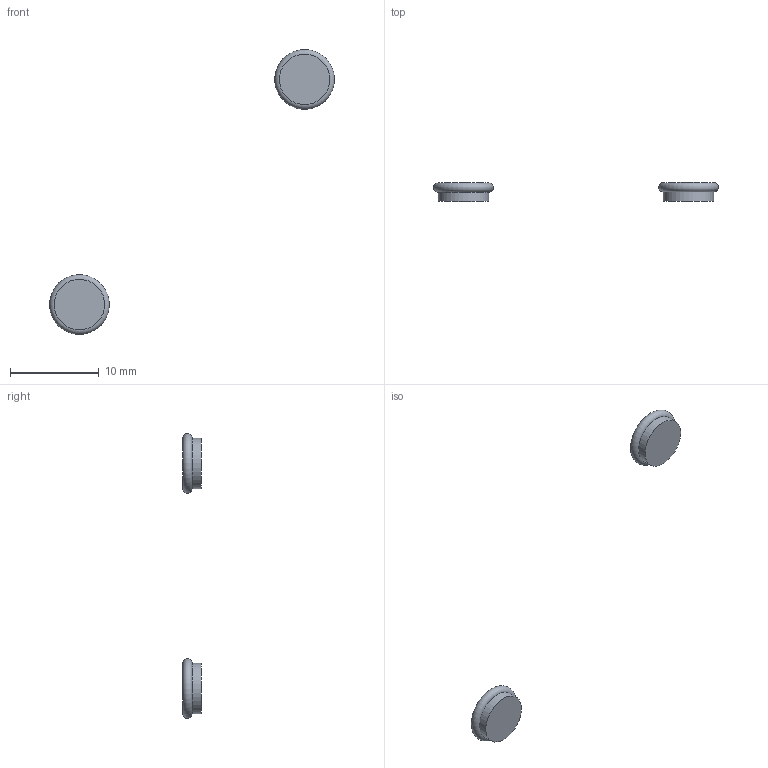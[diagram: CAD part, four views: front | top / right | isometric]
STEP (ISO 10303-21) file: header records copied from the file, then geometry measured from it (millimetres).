
FILE_DESCRIPTION(/* description */ (''),/* implementation_level */ '2;1');
FILE_NAME(/* name */ '/Users/lara/Documents/eTextileCamp/swatch/final/eTextile_Swatch_stud.step',/* time_stamp */ '2017-07-14T02:21:37+02:00',/* author */ (''),/* organization */ (''),/* preprocessor_version */ 'ST-DEVELOPER v16.13',/* originating_system */ 'Autodesk Translation Framework v6.1.1.50',/* authorisation */ '');
FILE_SCHEMA (('AUTOMOTIVE_DESIGN { 1 0 10303 214 3 1 1 }'));
Length unit declared in the file: millimetre
Products named in the file (1): eTextile Swatch: Male v2
Bounding box: 32.14 x 2.09 x 32.14 mm (x, y, z)
Volume: 122.9 mm3; surface area: 204.7 mm2
Topology: 2 solids, 2 shells, 8 faces, 12 edges, 8 vertices
Faces by surface type: plane 4, torus 2, cylinder 2
Full cylindrical faces by diameter (mm): 5.686 x2
Entity records: 165 total; most frequent: DIRECTION 30, CARTESIAN_POINT 21, AXIS2_PLACEMENT_3D 15, EDGE_LOOP 12, ORIENTED_EDGE 12, FACE_OUTER_BOUND 8, ADVANCED_FACE 8, CIRCLE 6
